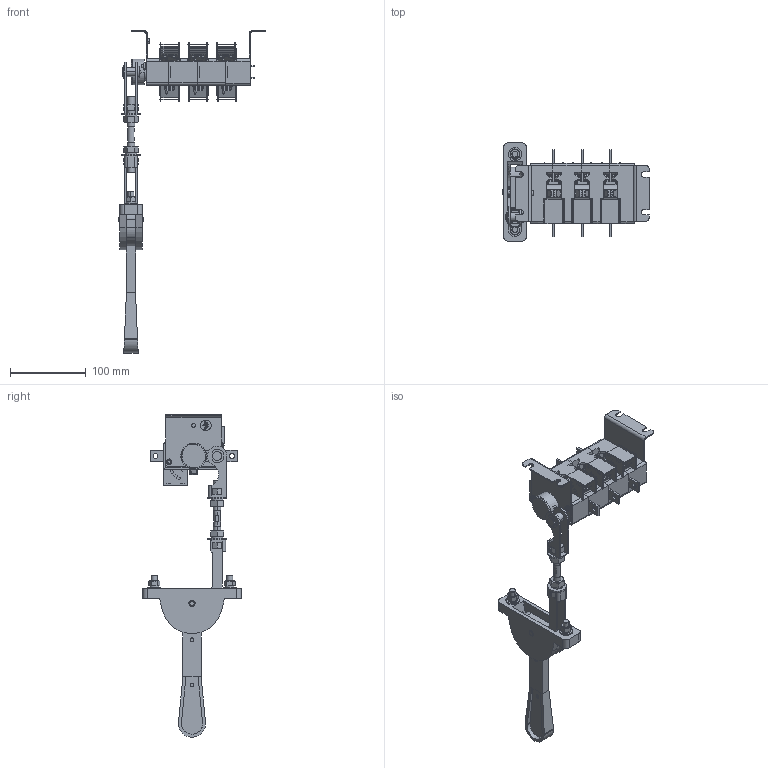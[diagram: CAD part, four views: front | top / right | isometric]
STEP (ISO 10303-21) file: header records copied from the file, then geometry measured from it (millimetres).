
FILE_DESCRIPTION (( 'STEP AP214' ), '1' );
FILE_NAME ('ﾂﾐ32-31 ﾃﾆﾈﾊ.642423.007-07 (ﾀ31240-100ﾀ).STEP', '2023-04-18T11:00:45', ( '' ), ( '' ), 'SwSTEP 2.0', 'SolidWorks 2018', '' );
FILE_SCHEMA (( 'AUTOMOTIVE_DESIGN' ));
Length unit declared in the file: millimetre
Products named in the file (55): 务黖闷仁.715411.024; Êîðïóñ ëåâûé ÃÆÈÊ.735384.081; 想囫蜩磬 (牮赅); îñü023; Ñêîáà ÃÆÈÊ.745326.032_“áâ ­®¢«¥­­®¥ á®áâ; Øàéáà ñïåöèàëüíàÿ; 想囫蜩磬_闷仁.745355.029; Òàáëè÷êà äëÿ ñáîðêè ÷èñòàÿ; Âàë ÃÆÈÊ.715274.009_ƒ†ˆŠ.715274.009; Ïðóæ014(13)_¤«ï á¡®àª¨; 殃钺郷闷仁.745327.019_帷獱; ﾘ琺矜 10 65ﾃ 016; Áîêîâèíà ïðàâàÿ ÃÆÈÊ.735224.022; Ðóêîÿòêà_ÃÆÈÊ.303658.012ÑÁ; Ãàéêà 2Ì8-6Í.5.016; ﾘ琺矜 4; 殃钺郷闷仁.301535.004蚜; Áîêîâèíà ëåâàÿ ÃÆÈÊ.735224.023; ﾘ琺矜 8 65ﾃ 016; Øïèëüêà ñïåöèàëüíàÿ ÃÆÈÊ.754292.014_-01(à¥§ì¡ ); 仫桦郷闷仁.758292.007; ﾏ魵鮏鶴ﾃﾆﾈﾊ.741321.006; Ãàéêà Ì4; ﾎ_ﾃﾆﾈﾊ.715411.027_-01 (癸ｮ爼); Áîëò Ì8õ25.58.019; 挓鎀霠罻; 殃钺郷闷仁.301535.003蚜; 青汶篪赅_闷仁.735211.002; Ñêîáà010; 挓鎀霠罻_100-400; ÑêîáàÃÆÈÊ.746743.004; 瀇僔蠂縺019; Êîíòàêò ïîäâèæíûé ÃÆÈÊ.745355.054; Ðóêîÿòêà_ÃÆÈÊ.303658.018; ﾂ鏆鮏 ﾃﾆﾈﾊ.745485.002; Ðóêîÿòêà ÃÆÈÊ.303658.014; ÈñêðîãàñèòåëüÃÆÈÊ741271005_sborka; ﾏ跖浯 ﾃﾆﾈﾊ.753553.010; 暑痫篑 镳噔 闷仁.735384.079; ﾘ琺矜 ⅰⅱ浯 ﾃﾆﾈﾊ.758491.067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
Assembly tree (93 placements, depth 5):
  ﾂﾐ32-31 ﾃﾆﾈﾊ.642423.007-07 (ﾀ31240-100ﾀ)
    暑痫篑 镳噔 闷仁.735384.079
    Êîðïóñ ëåâûé ÃÆÈÊ.735384.081
    Êîðïóñ ñðåäíèé ÃÆÈÊ.735384.080  x2
    Áîêîâèíà ïðàâàÿ ÃÆÈÊ.735224.022
    Áîêîâèíà ëåâàÿ ÃÆÈÊ.735224.023
    Ãàéêà Ì4  x2
    ﾘ琺矜 4  x2
    Øïèëüêà ñïåöèàëüíàÿ ÃÆÈÊ.754292.014_-01(à¥§ì¡ )  x2
    ﾂ鏆鮏 ﾃﾆﾈﾊ.745485.002  x6
    Êàìåðà äóãîãàñèòåëüíàÿ ÃÆÈÊ.686431.023_01(¯à®¢®«®ª )  x6
      想囫蜩磬 (牮赅)
      栺樇罻
      Èñêðîãàñèòåëü
      ÈñêðîãàñèòåëüÃÆÈÊ.686433.006
        ÈñêðîãàñèòåëüÃÆÈÊ741271005_sborka
        ÑêîáàÃÆÈÊ.746743.004
    Òàáëè÷êà äëÿ ñáîðêè ÷èñòàÿ
    Òàáëè÷êà äëÿ ñáîðêè ÷èñòàÿ áîëüøàÿ
    Ðóêîÿòêà ÃÆÈÊ.303658.014
      Êîðïóñ_ÃÆÈÊ.735384.053_¤«ï ç¥àâ¥¦ 
      Ðóêîÿòêà_ÃÆÈÊ.303658.012ÑÁ
        瀇僔蠂縺019
        挓鎀霠罻
      îñü023
      Ñêîáà010
      婰膲僗闉010
      Ïðóæ014(13)_¤«ï á¡®àª¨
      殃钺郷闷仁.301535.003蚜
        Ãàéêà 2Ì10-6Í.5.016
        殃钺郷闷仁.745327.019_帷獱
      务黖闷仁.715411.024
      仫桦郷闷仁.758292.007
      殃钺郷闷仁.301535.004蚜
        殃钺郷闷仁.745327.027_帷獱
        Ãàéêà 2Ì10-6Í.5.016
      Ðóêîÿòêà_ÃÆÈÊ.303658.018
        ﾏ魵鮏鶴 ﾃﾆﾈﾊ.304594.012Cﾁ
          ﾏ魵鮏鶴ﾃﾆﾈﾊ.741321.006
          ﾎ_ﾃﾆﾈﾊ.715411.027_-01 (癸ｮ爼)
          想囫蜩磬_闷仁.745355.029
        挓鎀霠罻_100-400
      Ãàéêà 2Ì10-6Í.5.016  x2
      ﾘ琺矜 ⅰⅱ浯 ﾃﾆﾈﾊ.758491.067
      青汶篪赅_闷仁.735211.002
      Áîëò Ì8õ25.58.019  x2
      ﾘ琺矜 8.01.019  x2
      ﾘ琺矜 8 65ﾃ 016  x2
      Ãàéêà 2Ì8-6Í.5.016  x2
      Øàéáà ñïåöèàëüíàÿ  x2
      ﾘ琺矜 10 65ﾃ 016  x2
    ﾂ琿 ﾃﾆﾈﾊ.303731.003
      Âàë ÃÆÈÊ.715274.009_ƒ†ˆŠ.715274.009
      Êîíòàêò ïîäâèæíûé ÃÆÈÊ.745355.054  x6
      Ñêîáà ÃÆÈÊ.745326.032_“áâ ­®¢«¥­­®¥ á®áâ  x6
    ﾏ跖浯 ﾃﾆﾈﾊ.753553.010  x2
    澡犟囹铕 闷仁.745484.014  x2
Bounding box: 193.5 x 130 x 426.52 mm (x, y, z)
Volume: 422254.6 mm3; surface area: 321073.5 mm2
Topology: 124 solids, 124 shells, 4763 faces, 12534 edges, 8090 vertices
Faces by surface type: plane 3217, cylinder 1221, torus 128, bspline 105, cone 86, sphere 6
Entity records: 70814 total; most frequent: CARTESIAN_POINT 18884, DIRECTION 9733, ORIENTED_EDGE 9382, EDGE_CURVE 4691, AXIS2_PLACEMENT_3D 3373, VERTEX_POINT 3040, LINE 2987, VECTOR 2987
